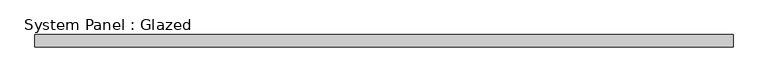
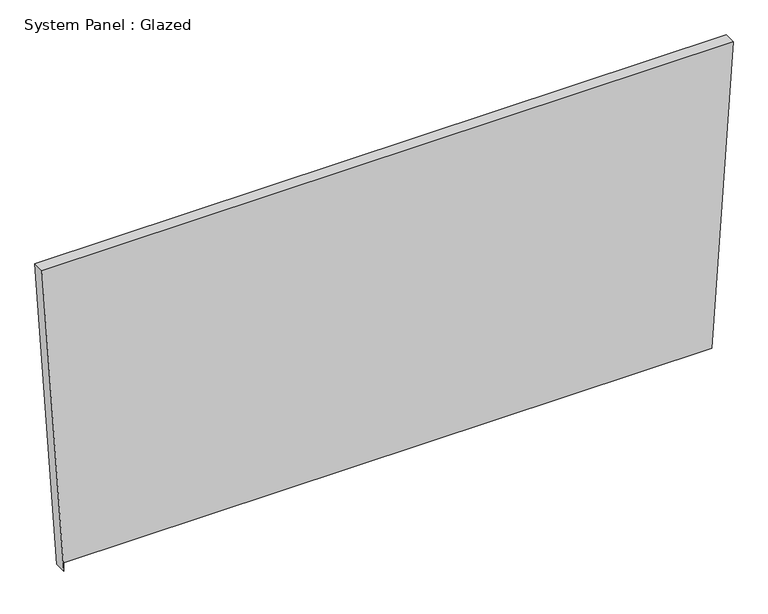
"""IFC4 building model written with IfcOpenShell, lengths in millimetres: plate geometry, System Panel : Glazed."""

from ifc_helpers import new_model, si_unit, frame, origin, place, context, project, spatial, polyline, outline, extrude, source, transform, mapped, element, save


def system_panel_glazed_5d3b9be6(model_context):
    return source(origin(), model_context, "Body", "SweptSolid", [
        extrude(outline(polyline([(0.0, -678.9061207), (19.05, -678.9061241), (19.05024, 680.1885109), (682.7226191, 724.8650292), (682.7223631, -724.8650292), (0.0, -678.9061207)])), frame((0.0, 19.05, 0.0), z_axis=(0.0, 1.0, 0.0), x_axis=(0.0, 0.0, 1.0)), (0.0, 0.0, 1.0), 25.4),
    ])


if __name__ == "__main__":
    model = new_model("IFC4")
    model_context = context("Model", 3, world=origin())
    ifc_project = project(units=[si_unit("LENGTHUNIT", "METRE", prefix="MILLI")], contexts=[model_context])
    site = spatial("IfcSite", under=ifc_project)
    building = spatial("IfcBuilding", under=site)
    placement = place(None, origin())
    system_panel_glazed_shape = system_panel_glazed_5d3b9be6(model_context)
    element("IfcPlate", 1, ObjectType="System Panel : Glazed", at=placement, inside=building, context=model_context, shape_type="MappedRepresentation", body=[
        mapped(system_panel_glazed_shape, transform((0.0, 0.0, 0.0), x_axis=(1.0, 0.0, 0.0), y_axis=(0.0, 1.0, 0.0), z_axis=(0.0, 0.0, 1.0))),
    ])
    save(model, "model.ifc")
